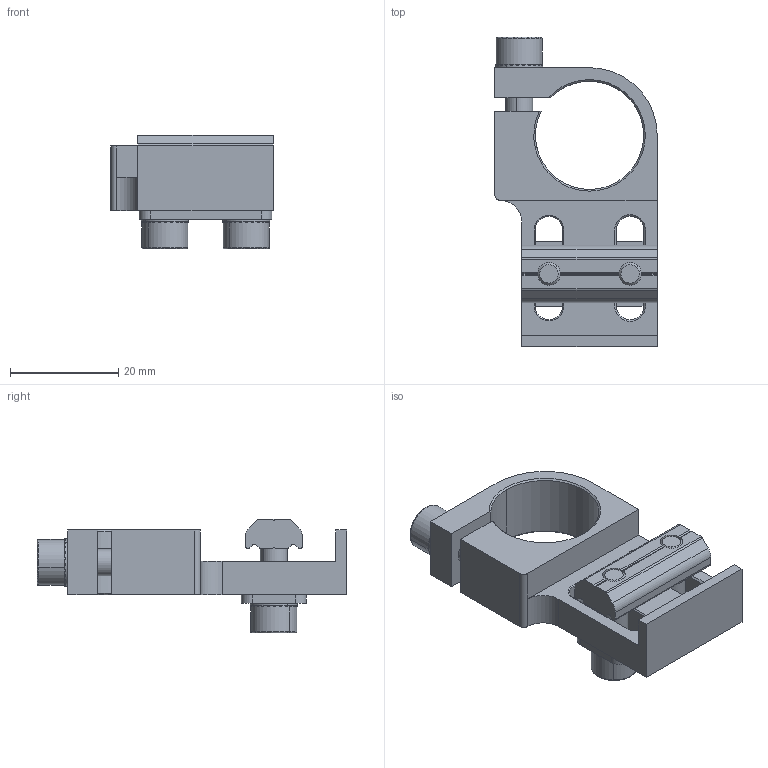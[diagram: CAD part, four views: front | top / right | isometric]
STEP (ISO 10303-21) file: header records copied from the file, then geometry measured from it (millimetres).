
FILE_DESCRIPTION (( 'STEP AP214' ), '1' );
FILE_NAME ('SMBE-2014.STEP', '2019-11-19T05:27:59', ( '微软用户' ), ( '微软中国' ), 'SwSTEP 2.0', 'SolidWorks 2016', '' );
FILE_SCHEMA (( 'AUTOMOTIVE_DESIGN' ));
Length unit declared in the file: millimetre
Products named in the file (1): SMBE-2014
Bounding box: 30 x 57.1 x 21 mm (x, y, z)
Volume: 10542.6 mm3; surface area: 8772.6 mm2
Topology: 9 solids, 9 shells, 764 faces, 2199 edges, 1448 vertices
Faces by surface type: plane 666, cylinder 68, cone 24, bspline 6
Entity records: 34147 total; most frequent: CARTESIAN_POINT 5019, ORIENTED_EDGE 4394, DIRECTION 4379, EDGE_CURVE 2197, AXIS2_PLACEMENT_3D 1471, VERTEX_POINT 1448, VECTOR 1437, LINE 1437
